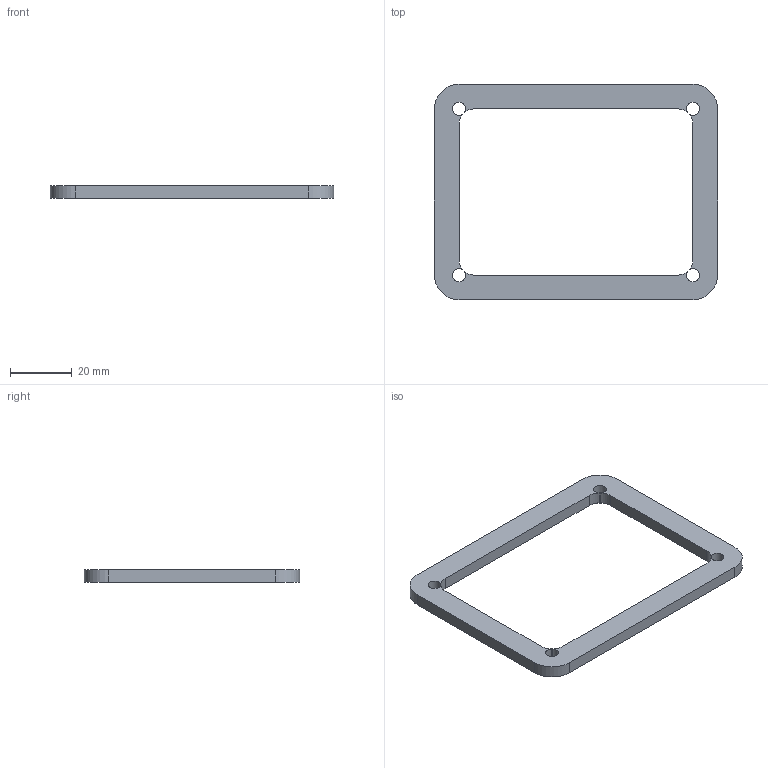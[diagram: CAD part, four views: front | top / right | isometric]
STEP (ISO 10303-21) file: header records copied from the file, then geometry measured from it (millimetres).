
FILE_DESCRIPTION(('Open CASCADE Model'),'2;1');
FILE_NAME('Open CASCADE Shape Model','2026-09-16T16:54:27',('Author'),( 'Open CASCADE'),'Open CASCADE STEP processor 7.8','Open CASCADE 7.8' ,'Unknown');
FILE_SCHEMA(('AUTOMOTIVE_DESIGN { 1 0 10303 214 1 1 1 1 }'));
Length unit declared in the file: millimetre
Products named in the file (1): Open CASCADE STEP translator 7.8 22
Bounding box: 92 x 70 x 4 mm (x, y, z)
Volume: 8988.6 mm3; surface area: 6933.4 mm2
Topology: 1 solids, 1 shells, 26 faces, 72 edges, 48 vertices
Faces by surface type: cylinder 16, plane 10
Entity records: 1790 total; most frequent: CARTESIAN_POINT 371, DIRECTION 262, ORIENTED_EDGE 144, PCURVE 144, DEFINITIONAL_REPRESENTATION 144, LINE 120, VECTOR 120, EDGE_CURVE 72
